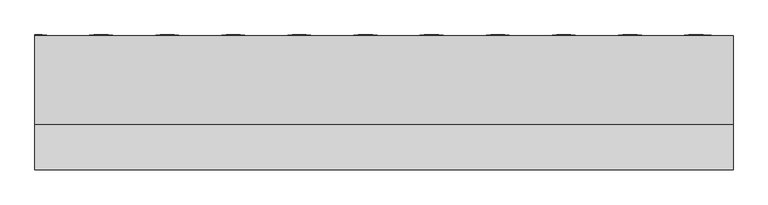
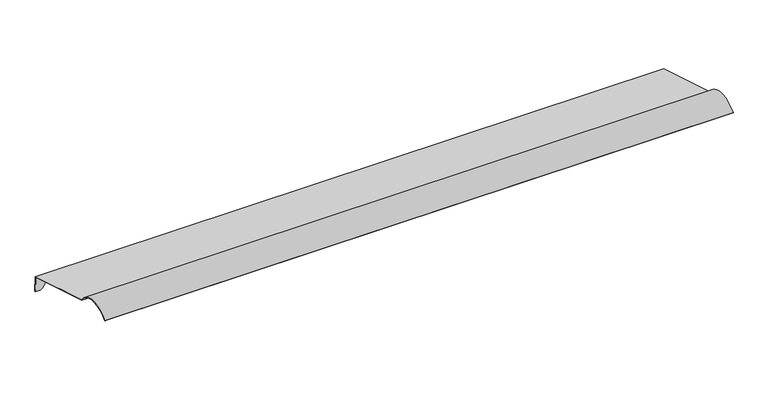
"""IFC4 building model written with IfcOpenShell, lengths in millimetres: proxy geometry, H20.F20.003-B-REMATES TEJA-Cumbrera Troquelada : Cumbrera Troquelada Teja."""

from ifc_helpers import new_model, si_unit, point, frame, origin, place, context, project, spatial, polyline, circle_curve, ellipse_curve, trimmed, source, transform, mapped, element, save
from ifc_brep_helpers import plane_surface, cylinder_surface, revolved_surface, extruded_surface, advanced_brep


def generic_models_bbb43453(model_context):
    return source(origin(), model_context, "Body", "AdvancedBrep", [
        advanced_brep(
        [(0.0, 281.4033726, -80.897882), (0.0, 57.2523162, -12.3680268), (0.0, -52.9905575, -6.8731021), (0.0, -54.2044834, -5.8308046), (0.0, 58.2444748, -10.9982533), (0.0, 282.9425462, -79.6953478), (0.0, 285.2976643, -124.6336769), (0.0, 283.699857, -124.7174144), (1760.0, 281.4033726, -80.897882), (1760.0, 57.2523162, -12.3680268), (1760.0, -52.9905575, -6.8731021), (1760.0, -54.2044834, -5.8308046), (1760.0, 58.2444748, -10.9982533), (1760.0, 282.9425462, -79.6953478), (1760.0, 283.219728, -84.9842917), (1685.5419763, 285.0927503, -120.7236858), (1678.6278261, 285.2976643, -124.6336769), (1654.5721739, 285.2976643, -124.6336769), (1647.6580237, 285.0927503, -120.7236858), (1518.8819763, 285.0927503, -120.7236858), (1511.9678261, 285.2976643, -124.6336769), (1487.9121739, 285.2976643, -124.6336769), (1480.9980237, 285.0927503, -120.7236858), (1352.2219763, 285.0927503, -120.7236858), (1345.3078261, 285.2976643, -124.6336769), (1321.2521739, 285.2976643, -124.6336769), (1314.3380237, 285.0927503, -120.7236858), (1185.5619763, 285.0927503, -120.7236858), (1178.6478261, 285.2976643, -124.6336769), (1154.5921739, 285.2976643, -124.6336769), (1147.6780237, 285.0927503, -120.7236858), (1018.9019763, 285.0927503, -120.7236858), (1011.9878261, 285.2976643, -124.6336769), (987.9321739, 285.2976643, -124.6336769), (981.0180237, 285.0927503, -120.7236858), (852.2419763, 285.0927503, -120.7236858), (845.3278261, 285.2976643, -124.6336769), (821.2721739, 285.2976643, -124.6336769), (814.3580237, 285.0927503, -120.7236858), (685.5819763, 285.0927503, -120.7236858), (678.6678261, 285.2976643, -124.6336769), (654.6121739, 285.2976643, -124.6336769), (647.6980237, 285.0927503, -120.7236858), (518.9219763, 285.0927503, -120.7236858), (512.0078261, 285.2976643, -124.6336769), (487.9521739, 285.2976643, -124.6336769), (481.0380237, 285.0927503, -120.7236858), (352.2619763, 285.0927503, -120.7236858), (345.3478261, 285.2976643, -124.6336769), (321.2921739, 285.2976643, -124.6336769), (314.3780237, 285.0927503, -120.7236858), (185.6019763, 285.0927503, -120.7236858), (178.6878261, 285.2976643, -124.6336769), (154.6321739, 285.2976643, -124.6336769), (147.7180237, 285.0927503, -120.7236858), (18.9419763, 285.0927503, -120.7236858), (12.0278261, 285.2976643, -124.6336769), (12.0278261, 283.699857, -124.7174144), (178.6878261, 283.699857, -124.7174144), (154.6321739, 283.699857, -124.7174144), (345.3478261, 283.699857, -124.7174144), (321.2921739, 283.699857, -124.7174144), (512.0078261, 283.699857, -124.7174144), (487.9521739, 283.699857, -124.7174144), (678.6678261, 283.699857, -124.7174144), (654.6121739, 283.699857, -124.7174144), (845.3278261, 283.699857, -124.7174144), (821.2721739, 283.699857, -124.7174144), (1011.9878261, 283.699857, -124.7174144), (987.9321739, 283.699857, -124.7174144), (1178.6478261, 283.699857, -124.7174144), (1154.5921739, 283.699857, -124.7174144), (1345.3078261, 283.699857, -124.7174144), (1321.2521739, 283.699857, -124.7174144), (1511.9678261, 283.699857, -124.7174144), (1487.9121739, 283.699857, -124.7174144), (1678.6278261, 283.699857, -124.7174144), (1654.5721739, 283.699857, -124.7174144), (18.9419763, 283.494943, -120.8074234), (147.7180237, 283.494943, -120.8074234), (185.6019763, 283.494943, -120.8074234), (314.3780237, 283.494943, -120.8074234), (352.2619763, 283.494943, -120.8074234), (481.0380237, 283.494943, -120.8074234), (518.9219763, 283.494943, -120.8074234), (647.6980237, 283.494943, -120.8074234), (685.5819763, 283.494943, -120.8074234), (814.3580237, 283.494943, -120.8074234), (852.2419763, 283.494943, -120.8074234), (981.0180237, 283.494943, -120.8074234), (1018.9019763, 283.494943, -120.8074234), (1147.6780237, 283.494943, -120.8074234), (1185.5619763, 283.494943, -120.8074234), (1314.3380237, 283.494943, -120.8074234), (1352.2219763, 283.494943, -120.8074234), (1480.9980237, 283.494943, -120.8074234), (1518.8819763, 283.494943, -120.8074234), (1647.6580237, 283.494943, -120.8074234), (1685.5419763, 283.494943, -120.8074234), (1760.0, 281.6219208, -85.0680292)],
        [
            (0, 1),
            (1, 2, circle_curve(frame((0.0, 0.0, -52.3716984), z_axis=(1.0, 0.0, 0.0), x_axis=(0.0, 1.0, 0.0)), 69.8435498)),
            (2, 3),
            (3, 4, circle_curve(frame((0.0, 0.0, -52.3716984), z_axis=(-1.0, 0.0, 0.0), x_axis=(0.0, 1.0, 0.0)), 71.4435498)),
            (4, 5),
            (5, 6),
            (6, 7),
            (7, 0),
            (0, 8),
            (8, 9),
            (9, 1),
            (9, 10, circle_curve(frame((1760.0, 0.0, -52.3716984), z_axis=(1.0, 0.0, 0.0), x_axis=(0.0, 1.0, 0.0)), 69.8435498)),
            (10, 2),
            (10, 11),
            (11, 3),
            (11, 12, circle_curve(frame((1760.0, 0.0, -52.3716984), z_axis=(-1.0, 0.0, 0.0), x_axis=(0.0, 1.0, 0.0)), 71.4435498)),
            (12, 4),
            (12, 13),
            (13, 5),
            (13, 14),
            (14, 15, ellipse_curve(frame((1749.93, 287.0242829, -157.5795235), z_axis=(0.0, -0.998629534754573, -0.052335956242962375), x_axis=(1.0, 0.0, 0.0)), 74.5, 73.3681776)),
            (15, 16, ellipse_curve(frame((1678.6278261, 284.8853374, -116.766012), z_axis=(0.0, 0.998629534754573, 0.052335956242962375), x_axis=(1.0, 0.0, 0.0)), 8.0, 7.878462)),
            (16, 17),
            (17, 18, ellipse_curve(frame((1654.5721739, 284.8853374, -116.766012), z_axis=(0.0, 0.998629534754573, 0.052335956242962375), x_axis=(1.0, 0.0, 0.0)), 8.0, 7.878462)),
            (18, 19, ellipse_curve(frame((1583.27, 287.0242829, -157.5795235), z_axis=(0.0, -0.998629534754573, -0.052335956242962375), x_axis=(1.0, 0.0, 0.0)), 74.5, 73.3681776)),
            (19, 20, ellipse_curve(frame((1511.9678261, 284.8853374, -116.766012), z_axis=(0.0, 0.998629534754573, 0.052335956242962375), x_axis=(1.0, 0.0, 0.0)), 8.0, 7.878462)),
            (20, 21),
            (21, 22, ellipse_curve(frame((1487.9121739, 284.8853374, -116.766012), z_axis=(0.0, 0.998629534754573, 0.0523359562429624), x_axis=(1.0, 0.0, 0.0)), 8.0, 7.878462)),
            (22, 23, ellipse_curve(frame((1416.61, 287.0242829, -157.5795235), z_axis=(0.0, -0.998629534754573, -0.052335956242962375), x_axis=(1.0, 0.0, 0.0)), 74.5, 73.3681776)),
            (23, 24, ellipse_curve(frame((1345.3078261, 284.8853374, -116.766012), z_axis=(0.0, 0.998629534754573, 0.052335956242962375), x_axis=(1.0, 0.0, 0.0)), 8.0, 7.878462)),
            (24, 25),
            (25, 26, ellipse_curve(frame((1321.2521739, 284.8853374, -116.766012), z_axis=(0.0, 0.998629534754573, 0.05233595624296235), x_axis=(1.0, 0.0, 0.0)), 8.0, 7.878462)),
            (26, 27, ellipse_curve(frame((1249.95, 287.0242829, -157.5795235), z_axis=(0.0, -0.998629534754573, -0.052335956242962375), x_axis=(1.0, 0.0, 0.0)), 74.5, 73.3681776)),
            (27, 28, ellipse_curve(frame((1178.6478261, 284.8853374, -116.766012), z_axis=(0.0, 0.998629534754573, 0.052335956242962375), x_axis=(1.0, 0.0, 0.0)), 8.0, 7.878462)),
            (28, 29),
            (29, 30, ellipse_curve(frame((1154.5921739, 284.8853374, -116.766012), z_axis=(0.0, 0.998629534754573, 0.052335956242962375), x_axis=(1.0, 0.0, 0.0)), 8.0, 7.878462)),
            (30, 31, ellipse_curve(frame((1083.29, 287.0242829, -157.5795235), z_axis=(0.0, -0.998629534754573, -0.0523359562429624), x_axis=(1.0, 0.0, 0.0)), 74.5, 73.3681776)),
            (31, 32, ellipse_curve(frame((1011.9878261, 284.8853374, -116.766012), z_axis=(0.0, 0.998629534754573, 0.052335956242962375), x_axis=(1.0, 0.0, 0.0)), 8.0, 7.878462)),
            (32, 33),
            (33, 34, ellipse_curve(frame((987.9321739, 284.8853374, -116.766012), z_axis=(0.0, 0.998629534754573, 0.052335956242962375), x_axis=(1.0, 0.0, 0.0)), 8.0, 7.878462)),
            (34, 35, ellipse_curve(frame((916.63, 287.0242829, -157.5795235), z_axis=(0.0, -0.998629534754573, -0.052335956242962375), x_axis=(1.0, 0.0, 0.0)), 74.5, 73.3681776)),
            (35, 36, ellipse_curve(frame((845.3278261, 284.8853374, -116.766012), z_axis=(0.0, 0.998629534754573, 0.052335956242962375), x_axis=(1.0, 0.0, 0.0)), 8.0, 7.878462)),
            (36, 37),
            (37, 38, ellipse_curve(frame((821.2721739, 284.8853374, -116.766012), z_axis=(0.0, 0.998629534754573, 0.052335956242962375), x_axis=(1.0, 0.0, 0.0)), 8.0, 7.878462)),
            (38, 39, ellipse_curve(frame((749.97, 287.0242829, -157.5795235), z_axis=(0.0, -0.998629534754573, -0.052335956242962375), x_axis=(1.0, 0.0, 0.0)), 74.5, 73.3681776)),
            (39, 40, ellipse_curve(frame((678.6678261, 284.8853374, -116.766012), z_axis=(0.0, 0.998629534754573, 0.052335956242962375), x_axis=(1.0, 0.0, 0.0)), 8.0, 7.878462)),
            (40, 41),
            (41, 42, ellipse_curve(frame((654.6121739, 284.8853374, -116.766012), z_axis=(0.0, 0.998629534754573, 0.052335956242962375), x_axis=(1.0, 0.0, 0.0)), 8.0, 7.878462)),
            (42, 43, ellipse_curve(frame((583.31, 287.0242829, -157.5795235), z_axis=(0.0, -0.998629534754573, -0.052335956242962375), x_axis=(1.0, 0.0, 0.0)), 74.5, 73.3681776)),
            (43, 44, ellipse_curve(frame((512.0078261, 284.8853374, -116.766012), z_axis=(0.0, 0.998629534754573, 0.052335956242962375), x_axis=(1.0, 0.0, 0.0)), 8.0, 7.878462)),
            (44, 45),
            (45, 46, ellipse_curve(frame((487.9521739, 284.8853374, -116.766012), z_axis=(0.0, 0.998629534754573, 0.052335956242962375), x_axis=(1.0, 0.0, 0.0)), 8.0, 7.878462)),
            (46, 47, ellipse_curve(frame((416.65, 287.0242829, -157.5795235), z_axis=(0.0, -0.998629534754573, -0.052335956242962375), x_axis=(1.0, 0.0, 0.0)), 74.5, 73.3681776)),
            (47, 48, ellipse_curve(frame((345.3478261, 284.8853374, -116.766012), z_axis=(0.0, 0.998629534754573, 0.052335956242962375), x_axis=(1.0, 0.0, 0.0)), 8.0, 7.878462)),
            (48, 49),
            (49, 50, ellipse_curve(frame((321.2921739, 284.8853374, -116.766012), z_axis=(0.0, 0.998629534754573, 0.0523359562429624), x_axis=(1.0, 0.0, 0.0)), 8.0, 7.878462)),
            (50, 51, ellipse_curve(frame((249.99, 287.0242829, -157.5795235), z_axis=(0.0, -0.998629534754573, -0.052335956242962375), x_axis=(1.0, 0.0, 0.0)), 74.5, 73.3681776)),
            (51, 52, ellipse_curve(frame((178.6878261, 284.8853374, -116.766012), z_axis=(0.0, 0.998629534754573, 0.052335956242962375), x_axis=(1.0, 0.0, 0.0)), 8.0, 7.878462)),
            (52, 53),
            (53, 54, ellipse_curve(frame((154.6321739, 284.8853374, -116.766012), z_axis=(0.0, 0.998629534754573, 0.052335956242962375), x_axis=(1.0, 0.0, 0.0)), 8.0, 7.878462)),
            (54, 55, ellipse_curve(frame((83.33, 287.0242829, -157.5795235), z_axis=(0.0, -0.998629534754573, -0.052335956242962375), x_axis=(1.0, 0.0, 0.0)), 74.5, 73.3681776)),
            (55, 56, ellipse_curve(frame((12.0278261, 284.8853374, -116.766012), z_axis=(0.0, 0.998629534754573, 0.052335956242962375), x_axis=(1.0, 0.0, 0.0)), 8.0, 7.878462)),
            (56, 6),
            (56, 57),
            (57, 7),
            (52, 58),
            (58, 59),
            (59, 53),
            (48, 60),
            (60, 61),
            (61, 49),
            (44, 62),
            (62, 63),
            (63, 45),
            (40, 64),
            (64, 65),
            (65, 41),
            (36, 66),
            (66, 67),
            (67, 37),
            (32, 68),
            (68, 69),
            (69, 33),
            (28, 70),
            (70, 71),
            (71, 29),
            (24, 72),
            (72, 73),
            (73, 25),
            (20, 74),
            (74, 75),
            (75, 21),
            (16, 76),
            (76, 77),
            (77, 17),
            (57, 78, ellipse_curve(frame((12.0278261, 283.2875302, -116.8497495), z_axis=(0.0, -0.998629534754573, -0.052335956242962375), x_axis=(1.0, 0.0, 0.0)), 8.0, 7.878462)),
            (78, 79, ellipse_curve(frame((83.33, 285.4264757, -157.663261), z_axis=(0.0, 0.998629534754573, 0.052335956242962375), x_axis=(1.0, 0.0, 0.0)), 74.5, 73.3681776)),
            (79, 59, ellipse_curve(frame((154.6321739, 283.2875302, -116.8497495), z_axis=(0.0, -0.998629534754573, -0.052335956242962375), x_axis=(1.0, 0.0, 0.0)), 8.0, 7.878462)),
            (58, 80, ellipse_curve(frame((178.6878261, 283.2875302, -116.8497495), z_axis=(0.0, -0.998629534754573, -0.052335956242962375), x_axis=(1.0, 0.0, 0.0)), 8.0, 7.878462)),
            (80, 81, ellipse_curve(frame((249.99, 285.4264757, -157.663261), z_axis=(0.0, 0.998629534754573, 0.052335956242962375), x_axis=(1.0, 0.0, 0.0)), 74.5, 73.3681776)),
            (81, 61, ellipse_curve(frame((321.2921739, 283.2875302, -116.8497495), z_axis=(0.0, -0.998629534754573, -0.0523359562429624), x_axis=(1.0, 0.0, 0.0)), 8.0, 7.878462)),
            (60, 82, ellipse_curve(frame((345.3478261, 283.2875302, -116.8497495), z_axis=(0.0, -0.998629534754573, -0.052335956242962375), x_axis=(1.0, 0.0, 0.0)), 8.0, 7.878462)),
            (82, 83, ellipse_curve(frame((416.65, 285.4264757, -157.663261), z_axis=(0.0, 0.998629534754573, 0.052335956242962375), x_axis=(1.0, 0.0, 0.0)), 74.5, 73.3681776)),
            (83, 63, ellipse_curve(frame((487.9521739, 283.2875302, -116.8497495), z_axis=(0.0, -0.998629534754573, -0.052335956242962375), x_axis=(1.0, 0.0, 0.0)), 8.0, 7.878462)),
            (62, 84, ellipse_curve(frame((512.0078261, 283.2875302, -116.8497495), z_axis=(0.0, -0.998629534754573, -0.052335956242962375), x_axis=(1.0, 0.0, 0.0)), 8.0, 7.878462)),
            (84, 85, ellipse_curve(frame((583.31, 285.4264757, -157.663261), z_axis=(0.0, 0.998629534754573, 0.052335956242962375), x_axis=(1.0, 0.0, 0.0)), 74.5, 73.3681776)),
            (85, 65, ellipse_curve(frame((654.6121739, 283.2875302, -116.8497495), z_axis=(0.0, -0.998629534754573, -0.052335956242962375), x_axis=(1.0, 0.0, 0.0)), 8.0, 7.878462)),
            (64, 86, ellipse_curve(frame((678.6678261, 283.2875302, -116.8497495), z_axis=(0.0, -0.998629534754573, -0.052335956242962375), x_axis=(1.0, 0.0, 0.0)), 8.0, 7.878462)),
            (86, 87, ellipse_curve(frame((749.97, 285.4264757, -157.663261), z_axis=(0.0, 0.998629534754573, 0.052335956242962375), x_axis=(1.0, 0.0, 0.0)), 74.5, 73.3681776)),
            (87, 67, ellipse_curve(frame((821.2721739, 283.2875302, -116.8497495), z_axis=(0.0, -0.998629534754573, -0.052335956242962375), x_axis=(1.0, 0.0, 0.0)), 8.0, 7.878462)),
            (66, 88, ellipse_curve(frame((845.3278261, 283.2875302, -116.8497495), z_axis=(0.0, -0.998629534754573, -0.052335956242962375), x_axis=(1.0, 0.0, 0.0)), 8.0, 7.878462)),
            (88, 89, ellipse_curve(frame((916.63, 285.4264757, -157.663261), z_axis=(0.0, 0.998629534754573, 0.052335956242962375), x_axis=(1.0, 0.0, 0.0)), 74.5, 73.3681776)),
            (89, 69, ellipse_curve(frame((987.9321739, 283.2875302, -116.8497495), z_axis=(0.0, -0.998629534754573, -0.052335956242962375), x_axis=(1.0, 0.0, 0.0)), 8.0, 7.878462)),
            (68, 90, ellipse_curve(frame((1011.9878261, 283.2875302, -116.8497495), z_axis=(0.0, -0.998629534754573, -0.052335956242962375), x_axis=(1.0, 0.0, 0.0)), 8.0, 7.878462)),
            (90, 91, ellipse_curve(frame((1083.29, 285.4264757, -157.663261), z_axis=(0.0, 0.998629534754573, 0.0523359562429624), x_axis=(1.0, 0.0, 0.0)), 74.5, 73.3681776)),
            (91, 71, ellipse_curve(frame((1154.5921739, 283.2875302, -116.8497495), z_axis=(0.0, -0.998629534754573, -0.052335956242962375), x_axis=(1.0, 0.0, 0.0)), 8.0, 7.878462)),
            (70, 92, ellipse_curve(frame((1178.6478261, 283.2875302, -116.8497495), z_axis=(0.0, -0.998629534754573, -0.052335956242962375), x_axis=(1.0, 0.0, 0.0)), 8.0, 7.878462)),
            (92, 93, ellipse_curve(frame((1249.95, 285.4264757, -157.663261), z_axis=(0.0, 0.998629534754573, 0.052335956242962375), x_axis=(1.0, 0.0, 0.0)), 74.5, 73.3681776)),
            (93, 73, ellipse_curve(frame((1321.2521739, 283.2875302, -116.8497495), z_axis=(0.0, -0.998629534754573, -0.05233595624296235), x_axis=(1.0, 0.0, 0.0)), 8.0, 7.878462)),
            (72, 94, ellipse_curve(frame((1345.3078261, 283.2875302, -116.8497495), z_axis=(0.0, -0.998629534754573, -0.052335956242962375), x_axis=(1.0, 0.0, 0.0)), 8.0, 7.878462)),
            (94, 95, ellipse_curve(frame((1416.61, 285.4264757, -157.663261), z_axis=(0.0, 0.998629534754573, 0.052335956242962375), x_axis=(1.0, 0.0, 0.0)), 74.5, 73.3681776)),
            (95, 75, ellipse_curve(frame((1487.9121739, 283.2875302, -116.8497495), z_axis=(0.0, -0.998629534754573, -0.0523359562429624), x_axis=(1.0, 0.0, 0.0)), 8.0, 7.878462)),
            (74, 96, ellipse_curve(frame((1511.9678261, 283.2875302, -116.8497495), z_axis=(0.0, -0.998629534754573, -0.052335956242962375), x_axis=(1.0, 0.0, 0.0)), 8.0, 7.878462)),
            (96, 97, ellipse_curve(frame((1583.27, 285.4264757, -157.663261), z_axis=(0.0, 0.998629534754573, 0.052335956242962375), x_axis=(1.0, 0.0, 0.0)), 74.5, 73.3681776)),
            (97, 77, ellipse_curve(frame((1654.5721739, 283.2875302, -116.8497495), z_axis=(0.0, -0.998629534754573, -0.052335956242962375), x_axis=(1.0, 0.0, 0.0)), 8.0, 7.878462)),
            (76, 98, ellipse_curve(frame((1678.6278261, 283.2875302, -116.8497495), z_axis=(0.0, -0.998629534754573, -0.052335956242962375), x_axis=(1.0, 0.0, 0.0)), 8.0, 7.878462)),
            (98, 99, ellipse_curve(frame((1749.93, 285.4264757, -157.663261), z_axis=(0.0, 0.998629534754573, 0.052335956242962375), x_axis=(1.0, 0.0, 0.0)), 74.5, 73.3681776)),
            (99, 8),
            (54, 79),
            (78, 55),
            (51, 80),
            (50, 81),
            (47, 82),
            (46, 83),
            (43, 84),
            (42, 85),
            (39, 86),
            (38, 87),
            (35, 88),
            (34, 89),
            (31, 90),
            (30, 91),
            (27, 92),
            (26, 93),
            (23, 94),
            (22, 95),
            (19, 96),
            (18, 97),
            (15, 98),
            (14, 99),
        ],
        [
            plane_surface(frame((0.0, 0.0, 0.0), z_axis=(-1.0, 0.0, 0.0), x_axis=(0.0, 0.0, 1.0))),
            plane_surface(frame((2500.0, 281.4033726, -80.897882), z_axis=(0.0, -0.2923717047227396, -0.9563047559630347), x_axis=(-1.0, 0.0, 0.0))),
            revolved_surface(polyline([(0.0, 69.8435498, -52.3716984), (1760.0, 69.8435498, -52.3716984)]), (2500.0, 0.0, -52.3716984), (-1.0, 0.0, 0.0)),
            plane_surface(frame((2500.0, -52.9905575, -6.8731021), z_axis=(0.0, -0.6514359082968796, -0.7587036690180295), x_axis=(-1.0, 0.0, 0.0))),
            cylinder_surface(frame((2500.0, 0.0, -52.3716984), z_axis=(1.0, 0.0, 0.0), x_axis=(0.0, 1.0, 0.0)), 71.4435498),
            plane_surface(frame((2500.0, 58.2444748, -10.9982533), z_axis=(0.0, 0.2923717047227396, 0.9563047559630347), x_axis=(-1.0, 0.0, 0.0))),
            plane_surface(frame((2500.0, 282.9425462, -79.6953478), z_axis=(0.0, 0.998629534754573, 0.05233595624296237), x_axis=(-1.0, 0.0, 0.0))),
            plane_surface(frame((2500.0, 285.2976643, -124.6336769), z_axis=(0.0, 0.05233595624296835, -0.9986295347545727), x_axis=(-1.0, 0.0, 0.0))),
            plane_surface(frame((2500.0, 283.699857, -124.7174144), z_axis=(0.0, -0.9986295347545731, -0.05233595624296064), x_axis=(-1.0, 0.0, 0.0))),
            extruded_surface(trimmed(ellipse_curve(frame((83.33, 289.021542, -157.4748516), z_axis=(0.0, 0.998629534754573, 0.052335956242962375), x_axis=(1.0, 0.0, 0.0)), 74.5, 73.3681776), [point((18.9419763, 287.0900094, -120.6190139))], [point((147.7180237, 287.0900094, -120.6190139))], True, "CARTESIAN"), (0.0, -1.997259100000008, -0.1046718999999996), 2.0000000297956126),
            extruded_surface(trimmed(ellipse_curve(frame((154.6321739, 286.8825965, -116.6613401), z_axis=(0.0, -0.998629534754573, -0.052335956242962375), x_axis=(1.0, 0.0, 0.0)), 8.0, 7.878462), [point((147.7180237, 287.0900094, -120.6190139))], [point((154.6321739, 287.2949233, -124.5290049))], True, "CARTESIAN"), (0.0, -1.997259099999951, -0.1046718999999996), 2.000000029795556),
            extruded_surface(trimmed(ellipse_curve(frame((178.6878261, 286.8825965, -116.6613401), z_axis=(0.0, -0.998629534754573, -0.052335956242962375), x_axis=(1.0, 0.0, 0.0)), 8.0, 7.878462), [point((178.6878261, 287.2949233, -124.5290049))], [point((185.6019763, 287.0900094, -120.6190139))], True, "CARTESIAN"), (0.0, -1.997259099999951, -0.1046718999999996), 2.000000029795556),
            extruded_surface(trimmed(ellipse_curve(frame((249.99, 289.021542, -157.4748516), z_axis=(0.0, 0.998629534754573, 0.052335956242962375), x_axis=(1.0, 0.0, 0.0)), 74.5, 73.3681776), [point((185.6019763, 287.0900094, -120.6190139))], [point((314.3780237, 287.0900094, -120.6190139))], True, "CARTESIAN"), (0.0, -1.997259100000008, -0.1046718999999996), 2.0000000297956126),
            extruded_surface(trimmed(ellipse_curve(frame((321.2921739, 286.8825965, -116.6613401), z_axis=(0.0, -0.998629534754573, -0.0523359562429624), x_axis=(1.0, 0.0, 0.0)), 8.0, 7.878462), [point((314.3780237, 287.0900094, -120.6190139))], [point((321.2921739, 287.2949233, -124.5290049))], True, "CARTESIAN"), (0.0, -1.997259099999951, -0.1046718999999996), 2.000000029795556),
            extruded_surface(trimmed(ellipse_curve(frame((345.3478261, 286.8825965, -116.6613401), z_axis=(0.0, -0.998629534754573, -0.052335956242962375), x_axis=(1.0, 0.0, 0.0)), 8.0, 7.878462), [point((345.3478261, 287.2949233, -124.5290049))], [point((352.2619763, 287.0900094, -120.6190139))], True, "CARTESIAN"), (0.0, -1.997259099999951, -0.1046718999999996), 2.000000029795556),
            extruded_surface(trimmed(ellipse_curve(frame((416.65, 289.021542, -157.4748516), z_axis=(0.0, 0.998629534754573, 0.052335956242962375), x_axis=(1.0, 0.0, 0.0)), 74.5, 73.3681776), [point((352.2619763, 287.0900094, -120.6190139))], [point((481.0380237, 287.0900094, -120.6190139))], True, "CARTESIAN"), (0.0, -1.997259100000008, -0.1046718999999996), 2.0000000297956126),
            extruded_surface(trimmed(ellipse_curve(frame((487.9521739, 286.8825965, -116.6613401), z_axis=(0.0, -0.998629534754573, -0.052335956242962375), x_axis=(1.0, 0.0, 0.0)), 8.0, 7.878462), [point((481.0380237, 287.0900094, -120.6190139))], [point((487.9521739, 287.2949233, -124.5290049))], True, "CARTESIAN"), (0.0, -1.997259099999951, -0.1046718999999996), 2.000000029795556),
            extruded_surface(trimmed(ellipse_curve(frame((512.0078261, 286.8825965, -116.6613401), z_axis=(0.0, -0.998629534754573, -0.052335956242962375), x_axis=(1.0, 0.0, 0.0)), 8.0, 7.878462), [point((512.0078261, 287.2949233, -124.5290049))], [point((518.9219763, 287.0900094, -120.6190139))], True, "CARTESIAN"), (0.0, -1.997259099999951, -0.1046718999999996), 2.000000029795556),
            extruded_surface(trimmed(ellipse_curve(frame((583.31, 289.021542, -157.4748516), z_axis=(0.0, 0.998629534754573, 0.052335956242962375), x_axis=(1.0, 0.0, 0.0)), 74.5, 73.3681776), [point((518.9219763, 287.0900094, -120.6190139))], [point((647.6980237, 287.0900094, -120.6190139))], True, "CARTESIAN"), (0.0, -1.997259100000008, -0.1046718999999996), 2.0000000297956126),
            extruded_surface(trimmed(ellipse_curve(frame((654.6121739, 286.8825965, -116.6613401), z_axis=(0.0, -0.998629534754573, -0.052335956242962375), x_axis=(1.0, 0.0, 0.0)), 8.0, 7.878462), [point((647.6980237, 287.0900094, -120.6190139))], [point((654.6121739, 287.2949233, -124.5290049))], True, "CARTESIAN"), (0.0, -1.997259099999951, -0.1046718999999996), 2.000000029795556),
            extruded_surface(trimmed(ellipse_curve(frame((678.6678261, 286.8825965, -116.6613401), z_axis=(0.0, -0.998629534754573, -0.052335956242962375), x_axis=(1.0, 0.0, 0.0)), 8.0, 7.878462), [point((678.6678261, 287.2949233, -124.5290049))], [point((685.5819763, 287.0900094, -120.6190139))], True, "CARTESIAN"), (0.0, -1.997259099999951, -0.1046718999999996), 2.000000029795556),
            extruded_surface(trimmed(ellipse_curve(frame((749.97, 289.021542, -157.4748516), z_axis=(0.0, 0.998629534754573, 0.052335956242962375), x_axis=(1.0, 0.0, 0.0)), 74.5, 73.3681776), [point((685.5819763, 287.0900094, -120.6190139))], [point((814.3580237, 287.0900094, -120.6190139))], True, "CARTESIAN"), (0.0, -1.997259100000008, -0.1046718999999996), 2.0000000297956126),
            extruded_surface(trimmed(ellipse_curve(frame((821.2721739, 286.8825965, -116.6613401), z_axis=(0.0, -0.998629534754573, -0.052335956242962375), x_axis=(1.0, 0.0, 0.0)), 8.0, 7.878462), [point((814.3580237, 287.0900094, -120.6190139))], [point((821.2721739, 287.2949233, -124.5290049))], True, "CARTESIAN"), (0.0, -1.997259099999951, -0.1046718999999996), 2.000000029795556),
            extruded_surface(trimmed(ellipse_curve(frame((845.3278261, 286.8825965, -116.6613401), z_axis=(0.0, -0.998629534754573, -0.052335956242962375), x_axis=(1.0, 0.0, 0.0)), 8.0, 7.878462), [point((845.3278261, 287.2949233, -124.5290049))], [point((852.2419763, 287.0900094, -120.6190139))], True, "CARTESIAN"), (0.0, -1.997259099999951, -0.1046718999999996), 2.000000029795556),
            extruded_surface(trimmed(ellipse_curve(frame((916.63, 289.021542, -157.4748516), z_axis=(0.0, 0.998629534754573, 0.052335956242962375), x_axis=(1.0, 0.0, 0.0)), 74.5, 73.3681776), [point((852.2419763, 287.0900094, -120.6190139))], [point((981.0180237, 287.0900094, -120.6190139))], True, "CARTESIAN"), (0.0, -1.997259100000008, -0.1046718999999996), 2.0000000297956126),
            extruded_surface(trimmed(ellipse_curve(frame((987.9321739, 286.8825965, -116.6613401), z_axis=(0.0, -0.998629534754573, -0.052335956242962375), x_axis=(1.0, 0.0, 0.0)), 8.0, 7.878462), [point((981.0180237, 287.0900094, -120.6190139))], [point((987.9321739, 287.2949233, -124.5290049))], True, "CARTESIAN"), (0.0, -1.997259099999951, -0.1046718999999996), 2.000000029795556),
            extruded_surface(trimmed(ellipse_curve(frame((1011.9878261, 286.8825965, -116.6613401), z_axis=(0.0, -0.998629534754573, -0.052335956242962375), x_axis=(1.0, 0.0, 0.0)), 8.0, 7.878462), [point((1011.9878261, 287.2949233, -124.5290049))], [point((1018.9019763, 287.0900094, -120.6190139))], True, "CARTESIAN"), (0.0, -1.997259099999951, -0.1046718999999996), 2.000000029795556),
            extruded_surface(trimmed(ellipse_curve(frame((1083.29, 289.021542, -157.4748516), z_axis=(0.0, 0.998629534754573, 0.0523359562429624), x_axis=(1.0, 0.0, 0.0)), 74.5, 73.3681776), [point((1018.9019763, 287.0900094, -120.6190139))], [point((1147.6780237, 287.0900094, -120.6190139))], True, "CARTESIAN"), (0.0, -1.997259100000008, -0.1046718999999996), 2.0000000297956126),
            extruded_surface(trimmed(ellipse_curve(frame((1154.5921739, 286.8825965, -116.6613401), z_axis=(0.0, -0.998629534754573, -0.052335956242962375), x_axis=(1.0, 0.0, 0.0)), 8.0, 7.878462), [point((1147.6780237, 287.0900094, -120.6190139))], [point((1154.5921739, 287.2949233, -124.5290049))], True, "CARTESIAN"), (0.0, -1.997259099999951, -0.1046718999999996), 2.000000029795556),
            extruded_surface(trimmed(ellipse_curve(frame((1178.6478261, 286.8825965, -116.6613401), z_axis=(0.0, -0.998629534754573, -0.052335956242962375), x_axis=(1.0, 0.0, 0.0)), 8.0, 7.878462), [point((1178.6478261, 287.2949233, -124.5290049))], [point((1185.5619763, 287.0900094, -120.6190139))], True, "CARTESIAN"), (0.0, -1.997259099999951, -0.1046718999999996), 2.000000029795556),
            extruded_surface(trimmed(ellipse_curve(frame((1249.95, 289.021542, -157.4748516), z_axis=(0.0, 0.998629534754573, 0.052335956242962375), x_axis=(1.0, 0.0, 0.0)), 74.5, 73.3681776), [point((1185.5619763, 287.0900094, -120.6190139))], [point((1314.3380237, 287.0900094, -120.6190139))], True, "CARTESIAN"), (0.0, -1.997259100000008, -0.1046718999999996), 2.0000000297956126),
            extruded_surface(trimmed(ellipse_curve(frame((1321.2521739, 286.8825965, -116.6613401), z_axis=(0.0, -0.998629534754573, -0.05233595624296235), x_axis=(1.0, 0.0, 0.0)), 8.0, 7.878462), [point((1314.3380237, 287.0900094, -120.6190139))], [point((1321.2521739, 287.2949233, -124.5290049))], True, "CARTESIAN"), (0.0, -1.997259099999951, -0.1046718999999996), 2.000000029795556),
            extruded_surface(trimmed(ellipse_curve(frame((1345.3078261, 286.8825965, -116.6613401), z_axis=(0.0, -0.998629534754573, -0.052335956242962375), x_axis=(1.0, 0.0, 0.0)), 8.0, 7.878462), [point((1345.3078261, 287.2949233, -124.5290049))], [point((1352.2219763, 287.0900094, -120.6190139))], True, "CARTESIAN"), (0.0, -1.997259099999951, -0.1046718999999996), 2.000000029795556),
            extruded_surface(trimmed(ellipse_curve(frame((1416.61, 289.021542, -157.4748516), z_axis=(0.0, 0.998629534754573, 0.052335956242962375), x_axis=(1.0, 0.0, 0.0)), 74.5, 73.3681776), [point((1352.2219763, 287.0900094, -120.6190139))], [point((1480.9980237, 287.0900094, -120.6190139))], True, "CARTESIAN"), (0.0, -1.997259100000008, -0.1046718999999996), 2.0000000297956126),
            extruded_surface(trimmed(ellipse_curve(frame((1487.9121739, 286.8825965, -116.6613401), z_axis=(0.0, -0.998629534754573, -0.0523359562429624), x_axis=(1.0, 0.0, 0.0)), 8.0, 7.878462), [point((1480.9980237, 287.0900094, -120.6190139))], [point((1487.9121739, 287.2949233, -124.5290049))], True, "CARTESIAN"), (0.0, -1.997259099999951, -0.1046718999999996), 2.000000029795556),
            extruded_surface(trimmed(ellipse_curve(frame((1511.9678261, 286.8825965, -116.6613401), z_axis=(0.0, -0.998629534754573, -0.052335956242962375), x_axis=(1.0, 0.0, 0.0)), 8.0, 7.878462), [point((1511.9678261, 287.2949233, -124.5290049))], [point((1518.8819763, 287.0900094, -120.6190139))], True, "CARTESIAN"), (0.0, -1.997259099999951, -0.1046718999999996), 2.000000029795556),
            extruded_surface(trimmed(ellipse_curve(frame((1583.27, 289.021542, -157.4748516), z_axis=(0.0, 0.998629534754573, 0.052335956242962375), x_axis=(1.0, 0.0, 0.0)), 74.5, 73.3681776), [point((1518.8819763, 287.0900094, -120.6190139))], [point((1647.6580237, 287.0900094, -120.6190139))], True, "CARTESIAN"), (0.0, -1.997259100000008, -0.1046718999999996), 2.0000000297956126),
            extruded_surface(trimmed(ellipse_curve(frame((1654.5721739, 286.8825965, -116.6613401), z_axis=(0.0, -0.998629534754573, -0.052335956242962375), x_axis=(1.0, 0.0, 0.0)), 8.0, 7.878462), [point((1647.6580237, 287.0900094, -120.6190139))], [point((1654.5721739, 287.2949233, -124.5290049))], True, "CARTESIAN"), (0.0, -1.997259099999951, -0.1046718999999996), 2.000000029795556),
            extruded_surface(trimmed(ellipse_curve(frame((1678.6278261, 286.8825965, -116.6613401), z_axis=(0.0, -0.998629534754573, -0.052335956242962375), x_axis=(1.0, 0.0, 0.0)), 8.0, 7.878462), [point((1678.6278261, 287.2949233, -124.5290049))], [point((1685.5419763, 287.0900094, -120.6190139))], True, "CARTESIAN"), (0.0, -1.997259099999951, -0.1046718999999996), 2.000000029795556),
            extruded_surface(trimmed(ellipse_curve(frame((1749.93, 289.021542, -157.4748516), z_axis=(0.0, 0.998629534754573, 0.052335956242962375), x_axis=(1.0, 0.0, 0.0)), 74.5, 73.3681776), [point((1685.5419763, 287.0900094, -120.6190139))], [point((1814.3180237, 287.0900094, -120.6190139))], True, "CARTESIAN"), (0.0, -1.997259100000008, -0.1046718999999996), 2.0000000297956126),
            extruded_surface(trimmed(ellipse_curve(frame((12.0278261, 286.8825965, -116.6613401), z_axis=(0.0, -0.998629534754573, -0.052335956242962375), x_axis=(1.0, 0.0, 0.0)), 8.0, 7.878462), [point((12.0278261, 287.2949233, -124.5290049))], [point((18.9419763, 287.0900094, -120.6190139))], True, "CARTESIAN"), (0.0, -1.997259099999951, -0.1046718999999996), 2.000000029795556),
            plane_surface(frame((1760.0, -196.3809555, 250.0), z_axis=(1.0, 0.0, 0.0), x_axis=(0.0, 0.0, -1.0))),
        ],
        [
            (0, [[1, 2, 3, 4, 5, 6, 7, 8]]),
            (1, [[9, 10, 11, -1]]),
            (2, [[-11, 12, 13, -2]]),
            (3, [[-13, 14, 15, -3]]),
            (4, [[-15, 16, 17, -4]]),
            (5, [[-17, 18, 19, -5]]),
            (6, [[-19, 20, 21, 22, 23, 24, 25, 26, 27, 28, 29, 30, 31, 32, 33, 34, 35, 36, 37, 38, 39, 40, 41, 42, 43, 44, 45, 46, 47, 48, 49, 50, 51, 52, 53, 54, 55, 56, 57, 58, 59, 60, 61, 62, 63, -6]]),
            (7, [[-63, 64, 65, -7]]),
            (7, [[66, 67, 68, -59]]),
            (7, [[69, 70, 71, -55]]),
            (7, [[72, 73, 74, -51]]),
            (7, [[75, 76, 77, -47]]),
            (7, [[78, 79, 80, -43]]),
            (7, [[81, 82, 83, -39]]),
            (7, [[84, 85, 86, -35]]),
            (7, [[87, 88, 89, -31]]),
            (7, [[90, 91, 92, -27]]),
            (7, [[93, 94, 95, -23]]),
            (8, [[-65, 96, 97, 98, -67, 99, 100, 101, -70, 102, 103, 104, -73, 105, 106, 107, -76, 108, 109, 110, -79, 111, 112, 113, -82, 114, 115, 116, -85, 117, 118, 119, -88, 120, 121, 122, -91, 123, 124, 125, -94, 126, 127, 128, -9, -8]]),
            (9, [[-61, 129, -97, 130]]),
            (10, [[-60, -68, -98, -129]]),
            (11, [[-99, -66, -58, 131]]),
            (12, [[-57, 132, -100, -131]]),
            (13, [[-56, -71, -101, -132]]),
            (14, [[-102, -69, -54, 133]]),
            (15, [[-53, 134, -103, -133]]),
            (16, [[-52, -74, -104, -134]]),
            (17, [[-105, -72, -50, 135]]),
            (18, [[-49, 136, -106, -135]]),
            (19, [[-48, -77, -107, -136]]),
            (20, [[-108, -75, -46, 137]]),
            (21, [[-45, 138, -109, -137]]),
            (22, [[-44, -80, -110, -138]]),
            (23, [[-111, -78, -42, 139]]),
            (24, [[-41, 140, -112, -139]]),
            (25, [[-40, -83, -113, -140]]),
            (26, [[-114, -81, -38, 141]]),
            (27, [[-37, 142, -115, -141]]),
            (28, [[-36, -86, -116, -142]]),
            (29, [[-117, -84, -34, 143]]),
            (30, [[-33, 144, -118, -143]]),
            (31, [[-32, -89, -119, -144]]),
            (32, [[-120, -87, -30, 145]]),
            (33, [[-29, 146, -121, -145]]),
            (34, [[-28, -92, -122, -146]]),
            (35, [[-123, -90, -26, 147]]),
            (36, [[-25, 148, -124, -147]]),
            (37, [[-24, -95, -125, -148]]),
            (38, [[-126, -93, -22, 149]]),
            (39, [[-21, 150, -127, -149]]),
            (40, [[-96, -64, -62, -130]]),
            (41, [[-128, -150, -20, -18, -16, -14, -12, -10]]),
        ],
    ),
    ])


if __name__ == "__main__":
    model = new_model("IFC4")
    model_context = context("Model", 3, world=origin())
    ifc_project = project(units=[si_unit("LENGTHUNIT", "METRE", prefix="MILLI")], contexts=[model_context])
    site = spatial("IfcSite", under=ifc_project)
    building = spatial("IfcBuilding", under=site)
    placement = place(None, origin())
    generic_models_shape = generic_models_bbb43453(model_context)
    element("IfcBuildingElementProxy", 1, Name="H20.F20.003-B-REMATES TEJA-Cumbrera Troquelada : Cumbrera Troquelada Teja", ObjectType="H20.F20.003-B-REMATES TEJA-Cumbrera Troquelada : Cumbrera Troquelada Teja", at=placement, inside=building, context=model_context, shape_type="MappedRepresentation", body=[
        mapped(generic_models_shape, transform((0.0, 0.0, 0.0), x_axis=(1.0, 0.0, 0.0), y_axis=(0.0, 1.0, 0.0), z_axis=(0.0, 0.0, 1.0))),
    ])
    save(model, "model.ifc")
